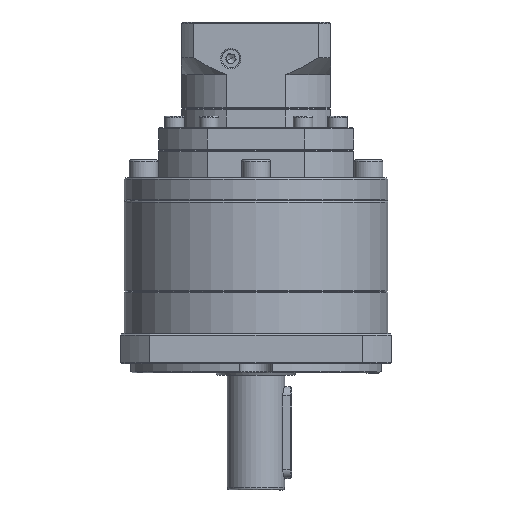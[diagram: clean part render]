
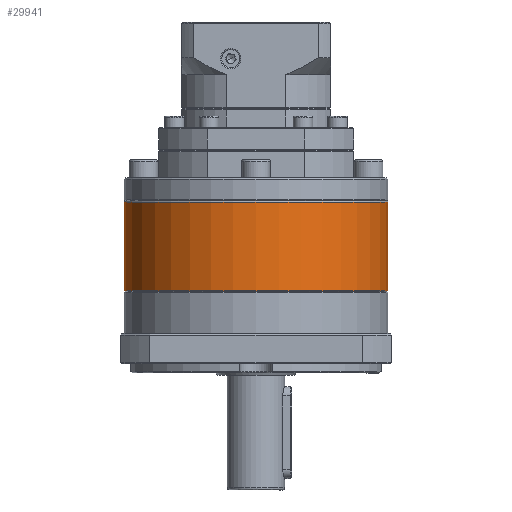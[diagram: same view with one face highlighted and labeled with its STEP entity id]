
A CAD part, front view. The second image highlights one B-rep face of the part: STEP entity #29941.
In plain terms, the highlighted cylindrical face has radius 57.5 mm (diameter 115 mm), a partial arc.
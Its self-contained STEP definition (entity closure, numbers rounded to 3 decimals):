
#535 = CARTESIAN_POINT ( 'NONE',  ( 49.262, 121.544, -66.154 ) ) ;
#3069 = LINE ( 'NONE', #116033, #6351 ) ;
#4680 = AXIS2_PLACEMENT_3D ( 'NONE', #67561, #35835, #16475 ) ;
#6351 = VECTOR ( 'NONE', #85487, 1000. ) ;
#10058 = DIRECTION ( 'NONE',  ( 0., 0., -1. ) ) ;
#10951 = EDGE_CURVE ( 'NONE', #132110, #127206, #131704, .T. ) ;
#13426 = EDGE_CURVE ( 'NONE', #132110, #86054, #71273, .T. ) ;
#16475 = DIRECTION ( 'NONE',  ( -1., 0., 0. ) ) ;
#19326 = CIRCLE ( 'NONE', #4680, 57.5 ) ;
#20879 = CARTESIAN_POINT ( 'NONE',  ( 49.262, 121.544, -66.654 ) ) ;
#22562 = EDGE_CURVE ( 'NONE', #102604, #86054, #19326, .T. ) ;
#29941 = ADVANCED_FACE ( 'NONE', ( #113293 ), #74690, .T. ) ;
#30237 = ORIENTED_EDGE ( 'NONE', *, *, #77506, .T. ) ;
#35835 = DIRECTION ( 'NONE',  ( 0., 0., 1. ) ) ;
#37235 = EDGE_LOOP ( 'NONE', ( #68409, #130796, #30237, #96892 ) ) ;
#47606 = CARTESIAN_POINT ( 'NONE',  ( 106.762, 121.544, -66.654 ) ) ;
#50949 = DIRECTION ( 'NONE',  ( -1., 0., 0. ) ) ;
#60121 = VECTOR ( 'NONE', #75326, 1000. ) ;
#62433 = DIRECTION ( 'NONE',  ( -1., 0., 0. ) ) ;
#65783 = CARTESIAN_POINT ( 'NONE',  ( 106.762, 121.544, -105.365 ) ) ;
#67561 = CARTESIAN_POINT ( 'NONE',  ( 49.262, 121.544, -105.365 ) ) ;
#68162 = AXIS2_PLACEMENT_3D ( 'NONE', #20879, #10058, #50949 ) ;
#68409 = ORIENTED_EDGE ( 'NONE', *, *, #13426, .F. ) ;
#71273 = LINE ( 'NONE', #72250, #60121 ) ;
#72250 = CARTESIAN_POINT ( 'NONE',  ( 106.762, 121.544, -66.154 ) ) ;
#74690 = CYLINDRICAL_SURFACE ( 'NONE', #84819, 57.5 ) ;
#75326 = DIRECTION ( 'NONE',  ( 0., 0., -1. ) ) ;
#77506 = EDGE_CURVE ( 'NONE', #127206, #102604, #3069, .T. ) ;
#84819 = AXIS2_PLACEMENT_3D ( 'NONE', #535, #123864, #62433 ) ;
#85487 = DIRECTION ( 'NONE',  ( 0., 0., -1. ) ) ;
#86054 = VERTEX_POINT ( 'NONE', #65783 ) ;
#92950 = CARTESIAN_POINT ( 'NONE',  ( -8.238, 121.544, -105.365 ) ) ;
#96892 = ORIENTED_EDGE ( 'NONE', *, *, #22562, .T. ) ;
#102604 = VERTEX_POINT ( 'NONE', #92950 ) ;
#113293 = FACE_OUTER_BOUND ( 'NONE', #37235, .T. ) ;
#115648 = CARTESIAN_POINT ( 'NONE',  ( -8.238, 121.544, -66.654 ) ) ;
#116033 = CARTESIAN_POINT ( 'NONE',  ( -8.238, 121.544, -66.154 ) ) ;
#123864 = DIRECTION ( 'NONE',  ( 0., 0., -1. ) ) ;
#127206 = VERTEX_POINT ( 'NONE', #115648 ) ;
#130796 = ORIENTED_EDGE ( 'NONE', *, *, #10951, .T. ) ;
#131704 = CIRCLE ( 'NONE', #68162, 57.5 ) ;
#132110 = VERTEX_POINT ( 'NONE', #47606 ) ;
